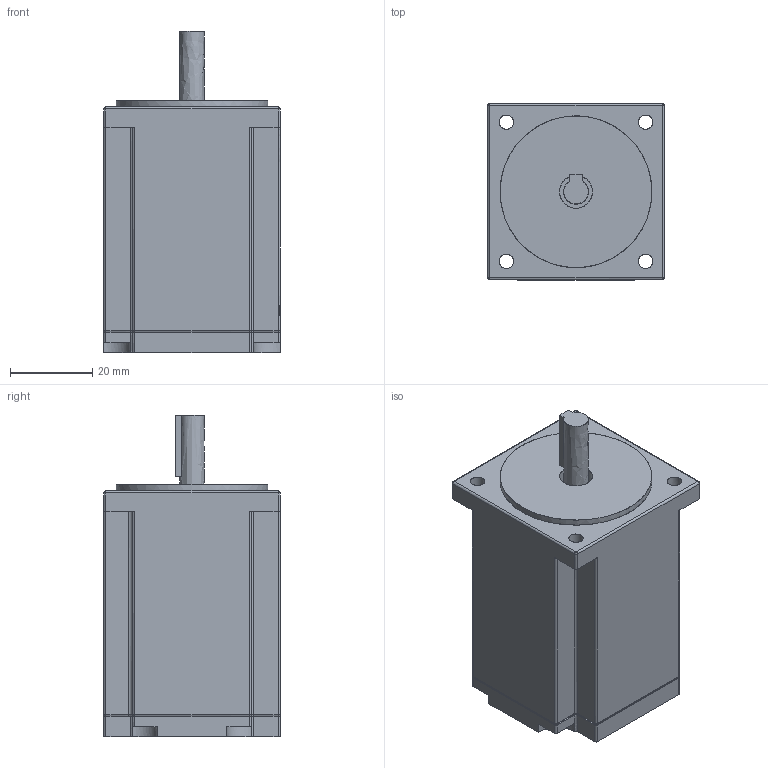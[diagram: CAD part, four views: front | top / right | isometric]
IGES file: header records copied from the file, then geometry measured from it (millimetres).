
Start section: C
Global section: file name: BL42M.igs; native system: By Siemens PLM Incorporated; preprocessor: XPlus GENERIC/IGES 17.0.49; author: Author; organization: Title; date: 20170219.124834; units: millimetre
Bounding box: 43 x 43 x 78.5 mm (x, y, z)
Surface area: 18956.2 mm2 (no closed solid volume)
Topology: 0 solids, 0 shells, 267 faces, 1653 edges, 1648 vertices
Faces by surface type: bspline 267
